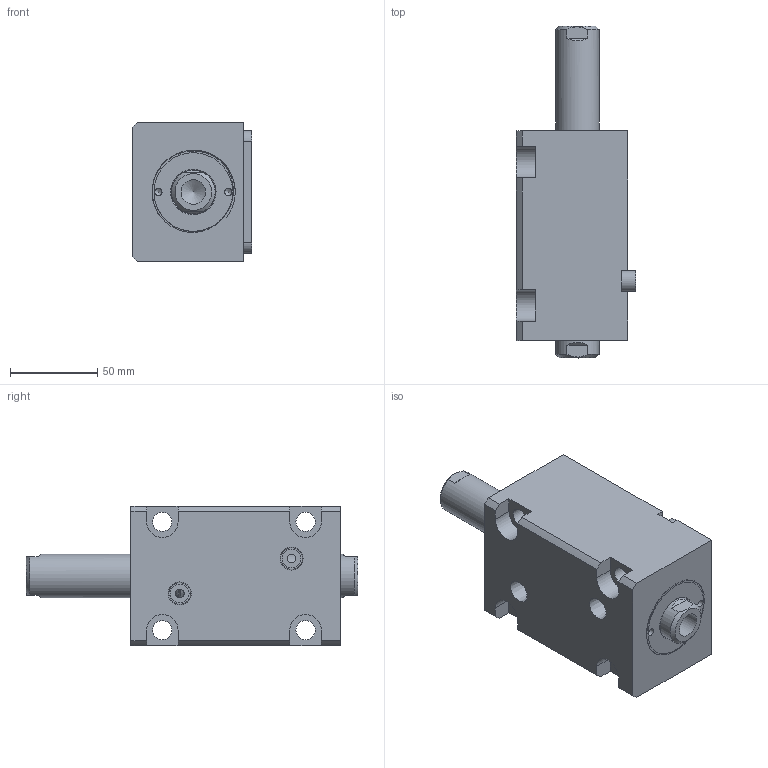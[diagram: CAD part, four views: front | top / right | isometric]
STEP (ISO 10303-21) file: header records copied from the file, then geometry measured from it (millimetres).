
FILE_DESCRIPTION(/* description */ (''),/* implementation_level */ '2;1');
FILE_NAME(/* name */ 'CHTB-lw40x50n.stp',/* time_stamp */ '2022-04-29T17:33:18+08:00',/* author */ (''),/* organization */ (''),/* preprocessor_version */ 'ST-DEVELOPER v16.7',/* originating_system */ 'SIEMENS PLM Software NX 12.0',/* authorisation */ '');
FILE_SCHEMA (('AUTOMOTIVE_DESIGN { 1 0 10303 214 3 1 1 1 }'));
Length unit declared in the file: millimetre
Products named in the file (1): CHTB-lw40x50n
Bounding box: 68.5 x 190 x 80 mm (x, y, z)
Volume: 566752.2 mm3; surface area: 100751.3 mm2
Topology: 4 solids, 4 shells, 468 faces, 1274 edges, 851 vertices
Faces by surface type: plane 316, extrusion 86, cylinder 41, torus 10, cone 9, bspline 6
Full cylindrical faces by diameter (mm): 4.2 x2, 5 x2, 10.7 x2, 11 x4, 14 x2, 25 x4, 29 x1, 34 x2, 40 x4, 45 x1
Entity records: 20497 total; most frequent: CARTESIAN_POINT 6757, ORIENTED_EDGE 2416, DIRECTION 1930, EDGE_CURVE 1208, VECTOR 982, LINE 896, VERTEX_POINT 834, EDGE_LOOP 566
